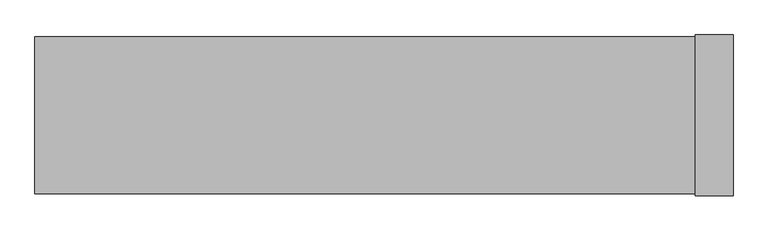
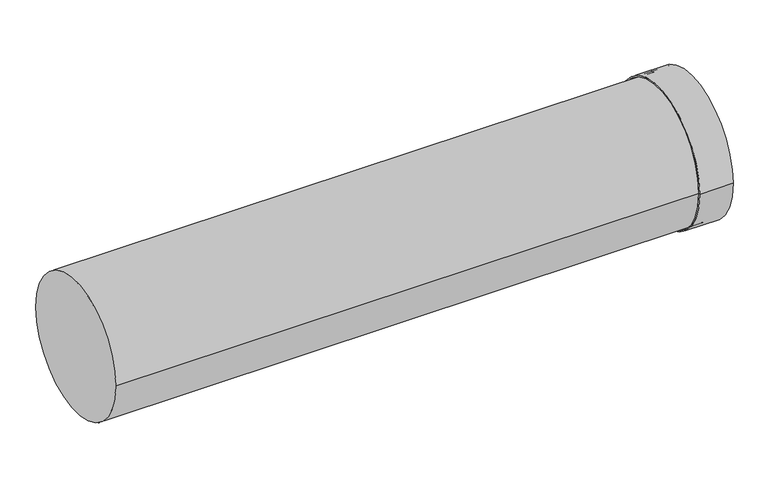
"""IFC4 building model written with IfcOpenShell, lengths in millimetres: duct fitting geometry, NLRS_57_DUF_UN_extension EPS_M&G : ø125 - ø200."""

from ifc_helpers import new_model, si_unit, point, frame, origin, origin_2d, place, context, project, spatial, polyline, circle_curve, trimmed, segment, composite_curve, outline, extrude, source, transform, mapped, element, save
from ifc_brep_helpers import plane_surface, cylinder_surface, revolved_surface, advanced_brep


def duct_fitting_1c3751d9(model_context):
    return source(origin(), model_context, "Body", "SolidModel", [
        advanced_brep(
        [(973.0, -118.5, 0.0), (973.0, 118.5, 0.0), (1029.0, 118.5, 0.0), (1029.0, -118.5, 0.0), (973.0, -116.5, 0.0), (973.0, 116.5, 0.0), (1000.0, -116.5, 0.0), (1000.0, 116.5, 0.0), (1000.0, -114.5, 0.0), (1000.0, 114.5, 0.0), (1002.0, -116.5, 0.0), (1002.0, 116.5, 0.0), (1002.0, 114.5, 0.0), (1002.0, -114.5, 0.0), (1029.0, -116.5, 0.0), (1029.0, 116.5, 0.0)],
        [
            (0, 1, circle_curve(frame((973.0, 0.0, 0.0), z_axis=(1.0, 0.0, 0.0), x_axis=(0.0, 1.0, 0.0)), 118.5)),
            (1, 2),
            (2, 3, circle_curve(frame((1029.0, 0.0, 0.0), z_axis=(-1.0, 0.0, 0.0), x_axis=(0.0, 1.0, 0.0)), 118.5)),
            (3, 0),
            (1, 0, circle_curve(frame((973.0, 0.0, 0.0), z_axis=(1.0, 0.0, 0.0), x_axis=(0.0, 1.0, 0.0)), 118.5)),
            (3, 2, circle_curve(frame((1029.0, 0.0, 0.0), z_axis=(-1.0, 0.0, 0.0), x_axis=(0.0, 1.0, 0.0)), 118.5)),
            (4, 5, circle_curve(frame((973.0, 0.0, 0.0), z_axis=(1.0, 0.0, 0.0), x_axis=(0.0, 1.0, 0.0)), 116.5)),
            (5, 1),
            (0, 4),
            (5, 4, circle_curve(frame((973.0, 0.0, 0.0), z_axis=(1.0, 0.0, 0.0), x_axis=(0.0, 1.0, 0.0)), 116.5)),
            (6, 7, circle_curve(frame((1000.0, 0.0, 0.0), z_axis=(1.0, 0.0, 0.0), x_axis=(0.0, 1.0, 0.0)), 116.5)),
            (7, 5),
            (4, 6),
            (7, 6, circle_curve(frame((1000.0, 0.0, 0.0), z_axis=(1.0, 0.0, 0.0), x_axis=(0.0, 1.0, 0.0)), 116.5)),
            (8, 9, circle_curve(frame((1000.0, 0.0, 0.0), z_axis=(1.0, 0.0, 0.0), x_axis=(0.0, 1.0, 0.0)), 114.5)),
            (9, 7),
            (6, 8),
            (9, 8, circle_curve(frame((1000.0, 0.0, 0.0), z_axis=(1.0, 0.0, 0.0), x_axis=(0.0, 1.0, 0.0)), 114.5)),
            (10, 11, circle_curve(frame((1002.0, 0.0, 0.0), z_axis=(1.0, 0.0, 0.0), x_axis=(0.0, 1.0, 0.0)), 116.5)),
            (11, 12),
            (12, 13, circle_curve(frame((1002.0, 0.0, 0.0), z_axis=(-1.0, 0.0, 0.0), x_axis=(0.0, 1.0, 0.0)), 114.5)),
            (13, 10),
            (11, 10, circle_curve(frame((1002.0, 0.0, 0.0), z_axis=(1.0, 0.0, 0.0), x_axis=(0.0, 1.0, 0.0)), 116.5)),
            (13, 12, circle_curve(frame((1002.0, 0.0, 0.0), z_axis=(-1.0, 0.0, 0.0), x_axis=(0.0, 1.0, 0.0)), 114.5)),
            (14, 15, circle_curve(frame((1029.0, 0.0, 0.0), z_axis=(1.0, 0.0, 0.0), x_axis=(0.0, 1.0, 0.0)), 116.5)),
            (15, 11),
            (10, 14),
            (15, 14, circle_curve(frame((1029.0, 0.0, 0.0), z_axis=(1.0, 0.0, 0.0), x_axis=(0.0, 1.0, 0.0)), 116.5)),
            (2, 15),
            (14, 3),
            (12, 9),
            (8, 13),
        ],
        [
            cylinder_surface(frame((2976.5, 0.0, 0.0), z_axis=(-1.0, 0.0, 0.0), x_axis=(0.0, 1.0, 0.0)), 118.5),
            plane_surface(frame((973.0, 0.0, 0.0), z_axis=(-1.0, 0.0, 0.0), x_axis=(0.0, 1.0, 0.0))),
            revolved_surface(polyline([(973.0, 116.5, 0.0), (1000.0, 116.5, 0.0)]), (2976.5, 0.0, 0.0), (-1.0, 0.0, 0.0)),
            plane_surface(frame((1000.0, 0.0, 0.0), z_axis=(-1.0, 0.0, 0.0), x_axis=(0.0, 1.0, 0.0))),
            plane_surface(frame((1002.0, 0.0, 0.0), z_axis=(1.0, 0.0, 0.0), x_axis=(0.0, 1.0, 0.0))),
            revolved_surface(polyline([(1002.0, 116.5, 0.0), (1029.0, 116.5, 0.0)]), (2976.5, 0.0, 0.0), (-1.0, 0.0, 0.0)),
            plane_surface(frame((1029.0, 0.0, 0.0), z_axis=(1.0, 0.0, 0.0), x_axis=(0.0, 1.0, 0.0))),
            revolved_surface(polyline([(1000.0, 114.5, 0.0), (1002.0, 114.5, 0.0)]), (2976.5, 0.0, 0.0), (-1.0, 0.0, 0.0)),
        ],
        [
            (0, [[1, 2, 3, 4]]),
            (0, [[5, -4, 6, -2]]),
            (1, [[7, 8, -1, 9]]),
            (1, [[10, -9, -5, -8]]),
            (2, [[11, 12, -7, 13]]),
            (2, [[14, -13, -10, -12]]),
            (3, [[15, 16, -11, 17]]),
            (3, [[18, -17, -14, -16]]),
            (4, [[19, 20, 21, 22]]),
            (4, [[23, -22, 24, -20]]),
            (5, [[25, 26, -19, 27]]),
            (5, [[28, -27, -23, -26]]),
            (6, [[-3, 29, -25, 30]]),
            (6, [[-6, -30, -28, -29]]),
            (7, [[-21, 31, -15, 32]]),
            (7, [[-24, -32, -18, -31]]),
        ],
    ),
        extrude(outline(composite_curve([segment(trimmed(circle_curve(origin_2d(), 115.5), [point((-115.5, 0.0))], [point((115.5, 0.0))], False, "CARTESIAN"), True, "CONTINUOUS"), segment(trimmed(circle_curve(origin_2d(), 115.5), [point((115.5, 0.0))], [point((-115.5, 0.0))], False, "CARTESIAN"), True, "CONTINUOUS")], self_intersect=False)), frame((0.0, 0.0, 0.0), z_axis=(1.0, 0.0, 0.0), x_axis=(0.0, 1.0, 0.0)), (0.0, 0.0, 1.0), 1000.0),
    ])


if __name__ == "__main__":
    model = new_model("IFC4")
    model_context = context("Model", 3, world=origin())
    ifc_project = project(units=[si_unit("LENGTHUNIT", "METRE", prefix="MILLI")], contexts=[model_context])
    site = spatial("IfcSite", under=ifc_project)
    building = spatial("IfcBuilding", under=site)
    placement = place(None, origin())
    duct_fitting_shape = duct_fitting_1c3751d9(model_context)
    element("IfcDuctFitting", 1, ObjectType="NLRS_57_DUF_UN_extension EPS_M&G : ø125 - ø200", at=placement, inside=building, context=model_context, shape_type="MappedRepresentation", body=[
        mapped(duct_fitting_shape, transform((0.0, 0.0, 0.0), x_axis=(1.0, 0.0, 0.0), y_axis=(0.0, 1.0, 0.0), z_axis=(0.0, 0.0, 1.0))),
    ])
    save(model, "model.ifc")
